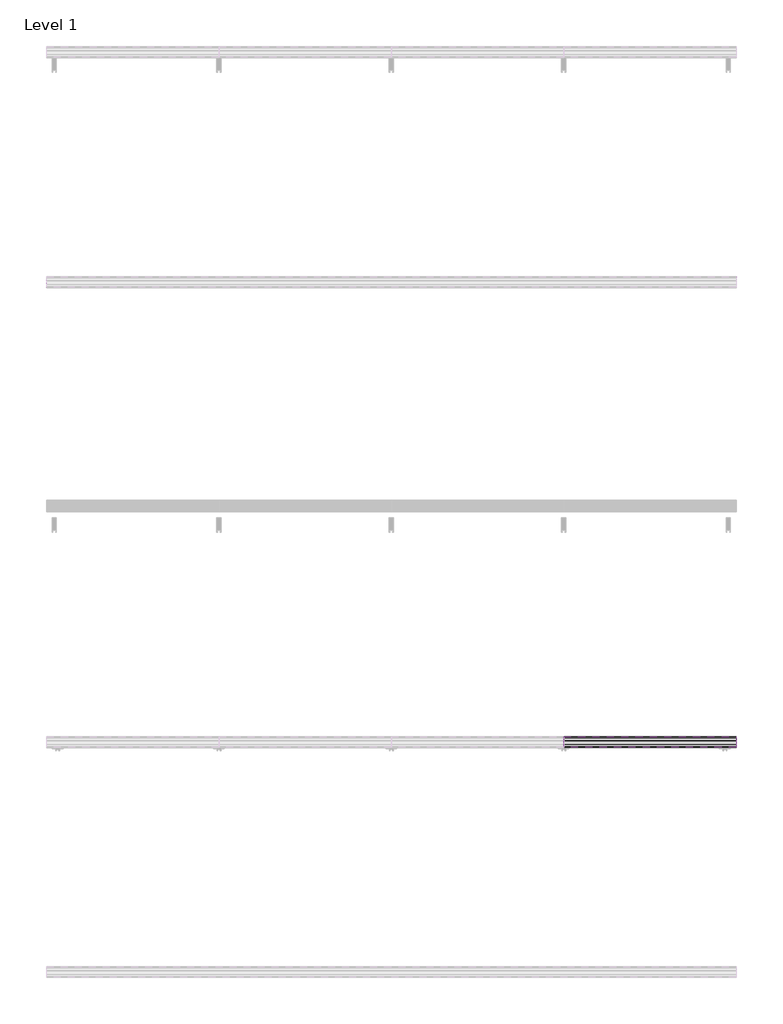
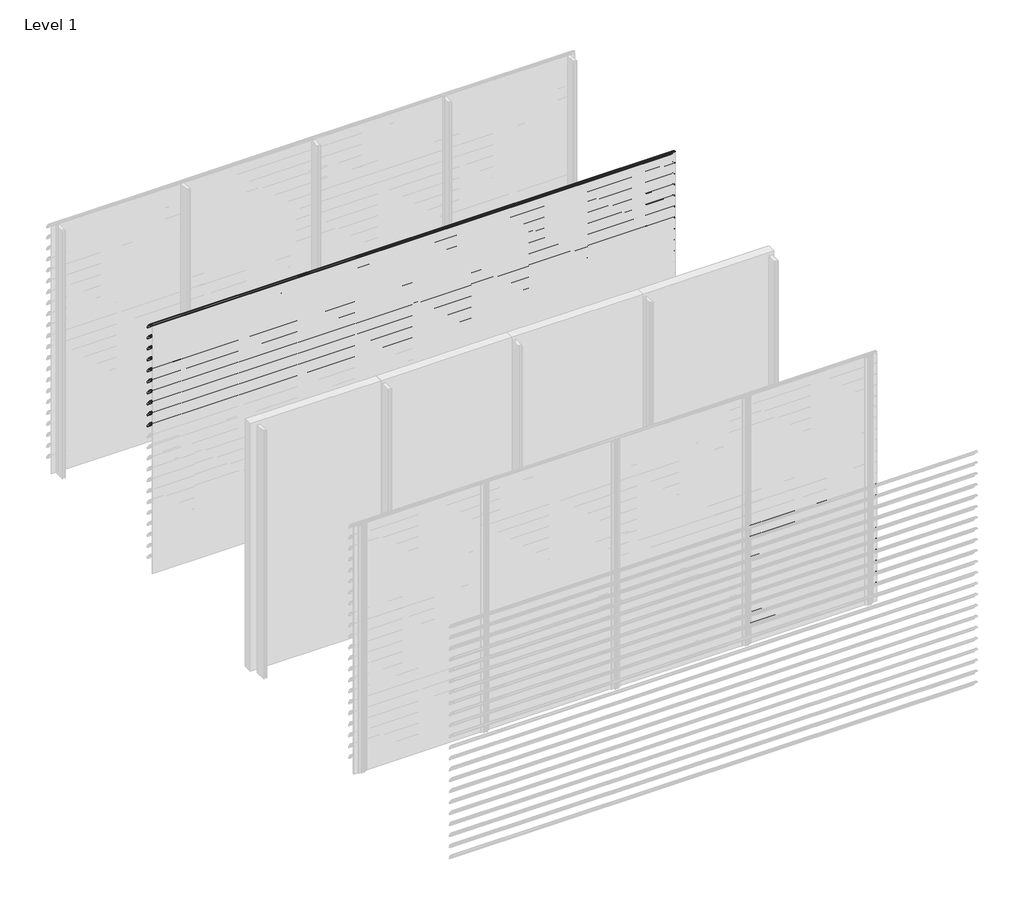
# One storey, part 8 of 57: 20 proxies.
"""IFC4 building model written with IfcOpenShell, lengths in millimetres."""

from ifc_helpers import new_model, si_unit, point, frame, frame_2d, origin, place, context, project, spatial, polyline, circle_curve, trimmed, segment, composite_curve, outline, extrude, element, save

model = new_model("IFC4")

# Units and contexts
model_context = context("Model", 3, world=origin())
ifc_project = project(units=[si_unit("LENGTHUNIT", "METRE", prefix="MILLI")], contexts=[model_context])

# Site, building, storey
site = spatial("IfcSite", under=ifc_project)
building = spatial("IfcBuilding", under=site)
storey = spatial("IfcBuildingStorey", under=building, Name="Level 1", Elevation=0.0)

# Proxies
placement = place(None, origin())
element("IfcBuildingElementProxy", 1, Name="Wall Sweeps", at=placement, inside=storey, context=model_context, shape_type="SweptSolid", body=[
    extrude(outline(composite_curve([segment(trimmed(circle_curve(frame_2d((-49993.7822526, 3016.4913792)), 4.2177474), [point((-49989.6985606, 3017.5462976))], [point((-49993.7822526, 3020.7091266))], False, "CARTESIAN"), True, "CONTINUOUS"), segment(trimmed(circle_curve(frame_2d((-50018.7150834, 2918.2536312)), 105.4456002), [point((-49993.7822526, 3020.7091266))], [point((-49971.7914298, 3012.6832099))], False, "CARTESIAN"), True, "CONTINUOUS"), segment(trimmed(circle_curve(frame_2d((-50061.7199745, 2864.0352476)), 173.7335887), [point((-49971.7914298, 3012.6832099))], [point((-49913.0720121, 2953.9637922))], False, "CARTESIAN"), True, "CONTINUOUS"), segment(trimmed(circle_curve(frame_2d((-50004.9297178, 2902.1860314)), 105.4456002), [point((-49913.0720121, 2953.9637922))], [point((-49903.6249616, 2931.4455765))], False, "CARTESIAN"), True, "CONTINUOUS"), segment(trimmed(circle_curve(frame_2d((-49907.809737, 2930.3307305)), 4.3307305), [point((-49903.6249616, 2931.4455765))], [point((-49909.0769196, 2926.189538))], False, "CARTESIAN"), True, "CONTINUOUS"), segment(polyline([(-49909.0769196, 2926.189538), (-49934.7401984, 2950.9722783)]), True, "CONTINUOUS"), segment(trimmed(circle_curve(frame_2d((-49931.3879574, 2953.2977626)), 4.079877), [point((-49934.7401984, 2950.9722783))], [point((-49930.7310597, 2957.3244091))], False, "CARTESIAN"), True, "CONTINUOUS"), segment(trimmed(circle_curve(frame_2d((-50014.6665585, 2935.2544323)), 86.7885467), [point((-49930.7310597, 2957.3244091))], [point((-49942.3028351, 2983.1683485))], True, "CARTESIAN"), True, "CONTINUOUS"), segment(polyline([(-49942.3028351, 2983.1683485), (-49940.7230099, 2985.9046861)]), True, "CONTINUOUS"), segment(trimmed(circle_curve(frame_2d((-50061.7199745, 2864.0352476)), 171.7335887), [point((-49940.7230099, 2985.9046861))], [point((-49972.7555872, 3010.9289618))], True, "CARTESIAN"), True, "CONTINUOUS"), segment(trimmed(circle_curve(frame_2d((-50018.7150834, 2918.2536312)), 103.4456002), [point((-49972.7555872, 3010.9289618))], [point((-49989.6985606, 3017.5462976))], True, "CARTESIAN"), True, "CONTINUOUS")], self_intersect=False)), frame((0.0, 0.0, 0.0), z_axis=(1.0, 0.0, 0.0), x_axis=(0.0, 1.0, 0.0)), (0.0, 0.0, 1.0), 6000.0),
])
element("IfcBuildingElementProxy", 2, Name="Wall Sweeps", at=placement, inside=storey, context=model_context, shape_type="SweptSolid", body=[
    extrude(outline(composite_curve([segment(trimmed(circle_curve(frame_2d((-49993.7822526, 2883.4913792)), 4.2177474), [point((-49989.6985606, 2884.5462976))], [point((-49993.7822526, 2887.7091266))], False, "CARTESIAN"), True, "CONTINUOUS"), segment(trimmed(circle_curve(frame_2d((-50018.7150834, 2785.2536312)), 105.4456002), [point((-49993.7822526, 2887.7091266))], [point((-49971.7914298, 2879.6832099))], False, "CARTESIAN"), True, "CONTINUOUS"), segment(trimmed(circle_curve(frame_2d((-50061.7199745, 2731.0352476)), 173.7335887), [point((-49971.7914298, 2879.6832099))], [point((-49913.0720121, 2820.9637922))], False, "CARTESIAN"), True, "CONTINUOUS"), segment(trimmed(circle_curve(frame_2d((-50004.9297178, 2769.1860314)), 105.4456002), [point((-49913.0720121, 2820.9637922))], [point((-49903.6249616, 2798.4455765))], False, "CARTESIAN"), True, "CONTINUOUS"), segment(trimmed(circle_curve(frame_2d((-49907.809737, 2797.3307305)), 4.3307305), [point((-49903.6249616, 2798.4455765))], [point((-49909.0769196, 2793.189538))], False, "CARTESIAN"), True, "CONTINUOUS"), segment(polyline([(-49909.0769196, 2793.189538), (-49934.7401984, 2817.9722783)]), True, "CONTINUOUS"), segment(trimmed(circle_curve(frame_2d((-49931.3879574, 2820.2977626)), 4.079877), [point((-49934.7401984, 2817.9722783))], [point((-49930.7310597, 2824.3244091))], False, "CARTESIAN"), True, "CONTINUOUS"), segment(trimmed(circle_curve(frame_2d((-50014.6665585, 2802.2544323)), 86.7885467), [point((-49930.7310597, 2824.3244091))], [point((-49942.3028351, 2850.1683485))], True, "CARTESIAN"), True, "CONTINUOUS"), segment(polyline([(-49942.3028351, 2850.1683485), (-49940.7230099, 2852.9046861)]), True, "CONTINUOUS"), segment(trimmed(circle_curve(frame_2d((-50061.7199745, 2731.0352476)), 171.7335887), [point((-49940.7230099, 2852.9046861))], [point((-49972.7555872, 2877.9289618))], True, "CARTESIAN"), True, "CONTINUOUS"), segment(trimmed(circle_curve(frame_2d((-50018.7150834, 2785.2536312)), 103.4456002), [point((-49972.7555872, 2877.9289618))], [point((-49989.6985606, 2884.5462976))], True, "CARTESIAN"), True, "CONTINUOUS")], self_intersect=False)), frame((0.0, 0.0, 0.0), z_axis=(1.0, 0.0, 0.0), x_axis=(0.0, 1.0, 0.0)), (0.0, 0.0, 1.0), 6000.0),
])
element("IfcBuildingElementProxy", 3, Name="Wall Sweeps", at=placement, inside=storey, context=model_context, shape_type="SweptSolid", body=[
    extrude(outline(composite_curve([segment(trimmed(circle_curve(frame_2d((-49993.7822526, 2750.4913792)), 4.2177474), [point((-49989.6985606, 2751.5462976))], [point((-49993.7822526, 2754.7091266))], False, "CARTESIAN"), True, "CONTINUOUS"), segment(trimmed(circle_curve(frame_2d((-50018.7150834, 2652.2536312)), 105.4456002), [point((-49993.7822526, 2754.7091266))], [point((-49971.7914298, 2746.6832099))], False, "CARTESIAN"), True, "CONTINUOUS"), segment(trimmed(circle_curve(frame_2d((-50061.7199745, 2598.0352476)), 173.7335887), [point((-49971.7914298, 2746.6832099))], [point((-49913.0720121, 2687.9637922))], False, "CARTESIAN"), True, "CONTINUOUS"), segment(trimmed(circle_curve(frame_2d((-50004.9297178, 2636.1860314)), 105.4456002), [point((-49913.0720121, 2687.9637922))], [point((-49903.6249616, 2665.4455765))], False, "CARTESIAN"), True, "CONTINUOUS"), segment(trimmed(circle_curve(frame_2d((-49907.809737, 2664.3307305)), 4.3307305), [point((-49903.6249616, 2665.4455765))], [point((-49909.0769196, 2660.189538))], False, "CARTESIAN"), True, "CONTINUOUS"), segment(polyline([(-49909.0769196, 2660.189538), (-49934.7401984, 2684.9722783)]), True, "CONTINUOUS"), segment(trimmed(circle_curve(frame_2d((-49931.3879574, 2687.2977626)), 4.079877), [point((-49934.7401984, 2684.9722783))], [point((-49930.7310597, 2691.3244091))], False, "CARTESIAN"), True, "CONTINUOUS"), segment(trimmed(circle_curve(frame_2d((-50014.6665585, 2669.2544323)), 86.7885467), [point((-49930.7310597, 2691.3244091))], [point((-49942.3028351, 2717.1683485))], True, "CARTESIAN"), True, "CONTINUOUS"), segment(polyline([(-49942.3028351, 2717.1683485), (-49940.7230099, 2719.9046861)]), True, "CONTINUOUS"), segment(trimmed(circle_curve(frame_2d((-50061.7199745, 2598.0352476)), 171.7335887), [point((-49940.7230099, 2719.9046861))], [point((-49972.7555872, 2744.9289618))], True, "CARTESIAN"), True, "CONTINUOUS"), segment(trimmed(circle_curve(frame_2d((-50018.7150834, 2652.2536312)), 103.4456002), [point((-49972.7555872, 2744.9289618))], [point((-49989.6985606, 2751.5462976))], True, "CARTESIAN"), True, "CONTINUOUS")], self_intersect=False)), frame((0.0, 0.0, 0.0), z_axis=(1.0, 0.0, 0.0), x_axis=(0.0, 1.0, 0.0)), (0.0, 0.0, 1.0), 6000.0),
])
element("IfcBuildingElementProxy", 4, Name="Wall Sweeps", at=placement, inside=storey, context=model_context, shape_type="SweptSolid", body=[
    extrude(outline(composite_curve([segment(trimmed(circle_curve(frame_2d((-49993.7822526, 2617.4913792)), 4.2177474), [point((-49989.6985606, 2618.5462976))], [point((-49993.7822526, 2621.7091266))], False, "CARTESIAN"), True, "CONTINUOUS"), segment(trimmed(circle_curve(frame_2d((-50018.7150834, 2519.2536312)), 105.4456002), [point((-49993.7822526, 2621.7091266))], [point((-49971.7914298, 2613.6832099))], False, "CARTESIAN"), True, "CONTINUOUS"), segment(trimmed(circle_curve(frame_2d((-50061.7199745, 2465.0352476)), 173.7335887), [point((-49971.7914298, 2613.6832099))], [point((-49913.0720121, 2554.9637922))], False, "CARTESIAN"), True, "CONTINUOUS"), segment(trimmed(circle_curve(frame_2d((-50004.9297178, 2503.1860314)), 105.4456002), [point((-49913.0720121, 2554.9637922))], [point((-49903.6249616, 2532.4455765))], False, "CARTESIAN"), True, "CONTINUOUS"), segment(trimmed(circle_curve(frame_2d((-49907.809737, 2531.3307305)), 4.3307305), [point((-49903.6249616, 2532.4455765))], [point((-49909.0769196, 2527.189538))], False, "CARTESIAN"), True, "CONTINUOUS"), segment(polyline([(-49909.0769196, 2527.189538), (-49934.7401984, 2551.9722783)]), True, "CONTINUOUS"), segment(trimmed(circle_curve(frame_2d((-49931.3879574, 2554.2977626)), 4.079877), [point((-49934.7401984, 2551.9722783))], [point((-49930.7310597, 2558.3244091))], False, "CARTESIAN"), True, "CONTINUOUS"), segment(trimmed(circle_curve(frame_2d((-50014.6665585, 2536.2544323)), 86.7885467), [point((-49930.7310597, 2558.3244091))], [point((-49942.3028351, 2584.1683485))], True, "CARTESIAN"), True, "CONTINUOUS"), segment(polyline([(-49942.3028351, 2584.1683485), (-49940.7230099, 2586.9046861)]), True, "CONTINUOUS"), segment(trimmed(circle_curve(frame_2d((-50061.7199745, 2465.0352476)), 171.7335887), [point((-49940.7230099, 2586.9046861))], [point((-49972.7555872, 2611.9289618))], True, "CARTESIAN"), True, "CONTINUOUS"), segment(trimmed(circle_curve(frame_2d((-50018.7150834, 2519.2536312)), 103.4456002), [point((-49972.7555872, 2611.9289618))], [point((-49989.6985606, 2618.5462976))], True, "CARTESIAN"), True, "CONTINUOUS")], self_intersect=False)), frame((0.0, 0.0, 0.0), z_axis=(1.0, 0.0, 0.0), x_axis=(0.0, 1.0, 0.0)), (0.0, 0.0, 1.0), 6000.0),
])
element("IfcBuildingElementProxy", 5, Name="Wall Sweeps", at=placement, inside=storey, context=model_context, shape_type="SweptSolid", body=[
    extrude(outline(composite_curve([segment(trimmed(circle_curve(frame_2d((-49993.7822526, 2484.4913792)), 4.2177474), [point((-49989.6985606, 2485.5462976))], [point((-49993.7822526, 2488.7091266))], False, "CARTESIAN"), True, "CONTINUOUS"), segment(trimmed(circle_curve(frame_2d((-50018.7150834, 2386.2536312)), 105.4456002), [point((-49993.7822526, 2488.7091266))], [point((-49971.7914298, 2480.6832099))], False, "CARTESIAN"), True, "CONTINUOUS"), segment(trimmed(circle_curve(frame_2d((-50061.7199745, 2332.0352476)), 173.7335887), [point((-49971.7914298, 2480.6832099))], [point((-49913.0720121, 2421.9637922))], False, "CARTESIAN"), True, "CONTINUOUS"), segment(trimmed(circle_curve(frame_2d((-50004.9297178, 2370.1860314)), 105.4456002), [point((-49913.0720121, 2421.9637922))], [point((-49903.6249616, 2399.4455765))], False, "CARTESIAN"), True, "CONTINUOUS"), segment(trimmed(circle_curve(frame_2d((-49907.809737, 2398.3307305)), 4.3307305), [point((-49903.6249616, 2399.4455765))], [point((-49909.0769196, 2394.189538))], False, "CARTESIAN"), True, "CONTINUOUS"), segment(polyline([(-49909.0769196, 2394.189538), (-49934.7401984, 2418.9722783)]), True, "CONTINUOUS"), segment(trimmed(circle_curve(frame_2d((-49931.3879574, 2421.2977626)), 4.079877), [point((-49934.7401984, 2418.9722783))], [point((-49930.7310597, 2425.3244091))], False, "CARTESIAN"), True, "CONTINUOUS"), segment(trimmed(circle_curve(frame_2d((-50014.6665585, 2403.2544323)), 86.7885467), [point((-49930.7310597, 2425.3244091))], [point((-49942.3028351, 2451.1683485))], True, "CARTESIAN"), True, "CONTINUOUS"), segment(polyline([(-49942.3028351, 2451.1683485), (-49940.7230099, 2453.9046861)]), True, "CONTINUOUS"), segment(trimmed(circle_curve(frame_2d((-50061.7199745, 2332.0352476)), 171.7335887), [point((-49940.7230099, 2453.9046861))], [point((-49972.7555872, 2478.9289618))], True, "CARTESIAN"), True, "CONTINUOUS"), segment(trimmed(circle_curve(frame_2d((-50018.7150834, 2386.2536312)), 103.4456002), [point((-49972.7555872, 2478.9289618))], [point((-49989.6985606, 2485.5462976))], True, "CARTESIAN"), True, "CONTINUOUS")], self_intersect=False)), frame((0.0, 0.0, 0.0), z_axis=(1.0, 0.0, 0.0), x_axis=(0.0, 1.0, 0.0)), (0.0, 0.0, 1.0), 6000.0),
])
element("IfcBuildingElementProxy", 6, Name="Wall Sweeps", at=placement, inside=storey, context=model_context, shape_type="SweptSolid", body=[
    extrude(outline(composite_curve([segment(trimmed(circle_curve(frame_2d((-49993.7822526, 2351.4913792)), 4.2177474), [point((-49989.6985606, 2352.5462976))], [point((-49993.7822526, 2355.7091266))], False, "CARTESIAN"), True, "CONTINUOUS"), segment(trimmed(circle_curve(frame_2d((-50018.7150834, 2253.2536312)), 105.4456002), [point((-49993.7822526, 2355.7091266))], [point((-49971.7914298, 2347.6832099))], False, "CARTESIAN"), True, "CONTINUOUS"), segment(trimmed(circle_curve(frame_2d((-50061.7199745, 2199.0352476)), 173.7335887), [point((-49971.7914298, 2347.6832099))], [point((-49913.0720121, 2288.9637922))], False, "CARTESIAN"), True, "CONTINUOUS"), segment(trimmed(circle_curve(frame_2d((-50004.9297178, 2237.1860314)), 105.4456002), [point((-49913.0720121, 2288.9637922))], [point((-49903.6249616, 2266.4455765))], False, "CARTESIAN"), True, "CONTINUOUS"), segment(trimmed(circle_curve(frame_2d((-49907.809737, 2265.3307305)), 4.3307305), [point((-49903.6249616, 2266.4455765))], [point((-49909.0769196, 2261.189538))], False, "CARTESIAN"), True, "CONTINUOUS"), segment(polyline([(-49909.0769196, 2261.189538), (-49934.7401984, 2285.9722783)]), True, "CONTINUOUS"), segment(trimmed(circle_curve(frame_2d((-49931.3879574, 2288.2977626)), 4.079877), [point((-49934.7401984, 2285.9722783))], [point((-49930.7310597, 2292.3244091))], False, "CARTESIAN"), True, "CONTINUOUS"), segment(trimmed(circle_curve(frame_2d((-50014.6665585, 2270.2544323)), 86.7885467), [point((-49930.7310597, 2292.3244091))], [point((-49942.3028351, 2318.1683485))], True, "CARTESIAN"), True, "CONTINUOUS"), segment(polyline([(-49942.3028351, 2318.1683485), (-49940.7230099, 2320.9046861)]), True, "CONTINUOUS"), segment(trimmed(circle_curve(frame_2d((-50061.7199745, 2199.0352476)), 171.7335887), [point((-49940.7230099, 2320.9046861))], [point((-49972.7555872, 2345.9289618))], True, "CARTESIAN"), True, "CONTINUOUS"), segment(trimmed(circle_curve(frame_2d((-50018.7150834, 2253.2536312)), 103.4456002), [point((-49972.7555872, 2345.9289618))], [point((-49989.6985606, 2352.5462976))], True, "CARTESIAN"), True, "CONTINUOUS")], self_intersect=False)), frame((0.0, 0.0, 0.0), z_axis=(1.0, 0.0, 0.0), x_axis=(0.0, 1.0, 0.0)), (0.0, 0.0, 1.0), 6000.0),
])
element("IfcBuildingElementProxy", 7, Name="Wall Sweeps", at=placement, inside=storey, context=model_context, shape_type="SweptSolid", body=[
    extrude(outline(composite_curve([segment(trimmed(circle_curve(frame_2d((-49993.7822526, 2218.4913792)), 4.2177474), [point((-49989.6985606, 2219.5462976))], [point((-49993.7822526, 2222.7091266))], False, "CARTESIAN"), True, "CONTINUOUS"), segment(trimmed(circle_curve(frame_2d((-50018.7150834, 2120.2536312)), 105.4456002), [point((-49993.7822526, 2222.7091266))], [point((-49971.7914298, 2214.6832099))], False, "CARTESIAN"), True, "CONTINUOUS"), segment(trimmed(circle_curve(frame_2d((-50061.7199745, 2066.0352476)), 173.7335887), [point((-49971.7914298, 2214.6832099))], [point((-49913.0720121, 2155.9637922))], False, "CARTESIAN"), True, "CONTINUOUS"), segment(trimmed(circle_curve(frame_2d((-50004.9297178, 2104.1860314)), 105.4456002), [point((-49913.0720121, 2155.9637922))], [point((-49903.6249616, 2133.4455765))], False, "CARTESIAN"), True, "CONTINUOUS"), segment(trimmed(circle_curve(frame_2d((-49907.809737, 2132.3307305)), 4.3307305), [point((-49903.6249616, 2133.4455765))], [point((-49909.0769196, 2128.189538))], False, "CARTESIAN"), True, "CONTINUOUS"), segment(polyline([(-49909.0769196, 2128.189538), (-49934.7401984, 2152.9722783)]), True, "CONTINUOUS"), segment(trimmed(circle_curve(frame_2d((-49931.3879574, 2155.2977626)), 4.079877), [point((-49934.7401984, 2152.9722783))], [point((-49930.7310597, 2159.3244091))], False, "CARTESIAN"), True, "CONTINUOUS"), segment(trimmed(circle_curve(frame_2d((-50014.6665585, 2137.2544323)), 86.7885467), [point((-49930.7310597, 2159.3244091))], [point((-49942.3028351, 2185.1683485))], True, "CARTESIAN"), True, "CONTINUOUS"), segment(polyline([(-49942.3028351, 2185.1683485), (-49940.7230099, 2187.9046861)]), True, "CONTINUOUS"), segment(trimmed(circle_curve(frame_2d((-50061.7199745, 2066.0352476)), 171.7335887), [point((-49940.7230099, 2187.9046861))], [point((-49972.7555872, 2212.9289618))], True, "CARTESIAN"), True, "CONTINUOUS"), segment(trimmed(circle_curve(frame_2d((-50018.7150834, 2120.2536312)), 103.4456002), [point((-49972.7555872, 2212.9289618))], [point((-49989.6985606, 2219.5462976))], True, "CARTESIAN"), True, "CONTINUOUS")], self_intersect=False)), frame((0.0, 0.0, 0.0), z_axis=(1.0, 0.0, 0.0), x_axis=(0.0, 1.0, 0.0)), (0.0, 0.0, 1.0), 6000.0),
])
element("IfcBuildingElementProxy", 8, Name="Wall Sweeps", at=placement, inside=storey, context=model_context, shape_type="SweptSolid", body=[
    extrude(outline(composite_curve([segment(trimmed(circle_curve(frame_2d((-49993.7822526, 2085.4913792)), 4.2177474), [point((-49989.6985606, 2086.5462976))], [point((-49993.7822526, 2089.7091266))], False, "CARTESIAN"), True, "CONTINUOUS"), segment(trimmed(circle_curve(frame_2d((-50018.7150834, 1987.2536312)), 105.4456002), [point((-49993.7822526, 2089.7091266))], [point((-49971.7914298, 2081.6832099))], False, "CARTESIAN"), True, "CONTINUOUS"), segment(trimmed(circle_curve(frame_2d((-50061.7199745, 1933.0352476)), 173.7335887), [point((-49971.7914298, 2081.6832099))], [point((-49913.0720121, 2022.9637922))], False, "CARTESIAN"), True, "CONTINUOUS"), segment(trimmed(circle_curve(frame_2d((-50004.9297178, 1971.1860314)), 105.4456002), [point((-49913.0720121, 2022.9637922))], [point((-49903.6249616, 2000.4455765))], False, "CARTESIAN"), True, "CONTINUOUS"), segment(trimmed(circle_curve(frame_2d((-49907.809737, 1999.3307305)), 4.3307305), [point((-49903.6249616, 2000.4455765))], [point((-49909.0769196, 1995.189538))], False, "CARTESIAN"), True, "CONTINUOUS"), segment(polyline([(-49909.0769196, 1995.189538), (-49934.7401984, 2019.9722783)]), True, "CONTINUOUS"), segment(trimmed(circle_curve(frame_2d((-49931.3879574, 2022.2977626)), 4.079877), [point((-49934.7401984, 2019.9722783))], [point((-49930.7310597, 2026.3244091))], False, "CARTESIAN"), True, "CONTINUOUS"), segment(trimmed(circle_curve(frame_2d((-50014.6665585, 2004.2544323)), 86.7885467), [point((-49930.7310597, 2026.3244091))], [point((-49942.3028351, 2052.1683485))], True, "CARTESIAN"), True, "CONTINUOUS"), segment(polyline([(-49942.3028351, 2052.1683485), (-49940.7230099, 2054.9046861)]), True, "CONTINUOUS"), segment(trimmed(circle_curve(frame_2d((-50061.7199745, 1933.0352476)), 171.7335887), [point((-49940.7230099, 2054.9046861))], [point((-49972.7555872, 2079.9289618))], True, "CARTESIAN"), True, "CONTINUOUS"), segment(trimmed(circle_curve(frame_2d((-50018.7150834, 1987.2536312)), 103.4456002), [point((-49972.7555872, 2079.9289618))], [point((-49989.6985606, 2086.5462976))], True, "CARTESIAN"), True, "CONTINUOUS")], self_intersect=False)), frame((0.0, 0.0, 0.0), z_axis=(1.0, 0.0, 0.0), x_axis=(0.0, 1.0, 0.0)), (0.0, 0.0, 1.0), 6000.0),
])
element("IfcBuildingElementProxy", 9, Name="Wall Sweeps", at=placement, inside=storey, context=model_context, shape_type="SweptSolid", body=[
    extrude(outline(composite_curve([segment(trimmed(circle_curve(frame_2d((-49993.7822526, 1952.4913792)), 4.2177474), [point((-49989.6985606, 1953.5462976))], [point((-49993.7822526, 1956.7091266))], False, "CARTESIAN"), True, "CONTINUOUS"), segment(trimmed(circle_curve(frame_2d((-50018.7150834, 1854.2536312)), 105.4456002), [point((-49993.7822526, 1956.7091266))], [point((-49971.7914298, 1948.6832099))], False, "CARTESIAN"), True, "CONTINUOUS"), segment(trimmed(circle_curve(frame_2d((-50061.7199745, 1800.0352476)), 173.7335887), [point((-49971.7914298, 1948.6832099))], [point((-49913.0720121, 1889.9637922))], False, "CARTESIAN"), True, "CONTINUOUS"), segment(trimmed(circle_curve(frame_2d((-50004.9297178, 1838.1860314)), 105.4456002), [point((-49913.0720121, 1889.9637922))], [point((-49903.6249616, 1867.4455765))], False, "CARTESIAN"), True, "CONTINUOUS"), segment(trimmed(circle_curve(frame_2d((-49907.809737, 1866.3307305)), 4.3307305), [point((-49903.6249616, 1867.4455765))], [point((-49909.0769196, 1862.189538))], False, "CARTESIAN"), True, "CONTINUOUS"), segment(polyline([(-49909.0769196, 1862.189538), (-49934.7401984, 1886.9722783)]), True, "CONTINUOUS"), segment(trimmed(circle_curve(frame_2d((-49931.3879574, 1889.2977626)), 4.079877), [point((-49934.7401984, 1886.9722783))], [point((-49930.7310597, 1893.3244091))], False, "CARTESIAN"), True, "CONTINUOUS"), segment(trimmed(circle_curve(frame_2d((-50014.6665585, 1871.2544323)), 86.7885467), [point((-49930.7310597, 1893.3244091))], [point((-49942.3028351, 1919.1683485))], True, "CARTESIAN"), True, "CONTINUOUS"), segment(polyline([(-49942.3028351, 1919.1683485), (-49940.7230099, 1921.9046861)]), True, "CONTINUOUS"), segment(trimmed(circle_curve(frame_2d((-50061.7199745, 1800.0352476)), 171.7335887), [point((-49940.7230099, 1921.9046861))], [point((-49972.7555872, 1946.9289618))], True, "CARTESIAN"), True, "CONTINUOUS"), segment(trimmed(circle_curve(frame_2d((-50018.7150834, 1854.2536312)), 103.4456002), [point((-49972.7555872, 1946.9289618))], [point((-49989.6985606, 1953.5462976))], True, "CARTESIAN"), True, "CONTINUOUS")], self_intersect=False)), frame((0.0, 0.0, 0.0), z_axis=(1.0, 0.0, 0.0), x_axis=(0.0, 1.0, 0.0)), (0.0, 0.0, 1.0), 6000.0),
])
element("IfcBuildingElementProxy", 10, Name="Wall Sweeps", at=placement, inside=storey, context=model_context, shape_type="SweptSolid", body=[
    extrude(outline(composite_curve([segment(trimmed(circle_curve(frame_2d((-49993.7822526, 1819.4913792)), 4.2177474), [point((-49989.6985606, 1820.5462976))], [point((-49993.7822526, 1823.7091266))], False, "CARTESIAN"), True, "CONTINUOUS"), segment(trimmed(circle_curve(frame_2d((-50018.7150834, 1721.2536312)), 105.4456002), [point((-49993.7822526, 1823.7091266))], [point((-49971.7914298, 1815.6832099))], False, "CARTESIAN"), True, "CONTINUOUS"), segment(trimmed(circle_curve(frame_2d((-50061.7199745, 1667.0352476)), 173.7335887), [point((-49971.7914298, 1815.6832099))], [point((-49913.0720121, 1756.9637922))], False, "CARTESIAN"), True, "CONTINUOUS"), segment(trimmed(circle_curve(frame_2d((-50004.9297178, 1705.1860314)), 105.4456002), [point((-49913.0720121, 1756.9637922))], [point((-49903.6249616, 1734.4455765))], False, "CARTESIAN"), True, "CONTINUOUS"), segment(trimmed(circle_curve(frame_2d((-49907.809737, 1733.3307305)), 4.3307305), [point((-49903.6249616, 1734.4455765))], [point((-49909.0769196, 1729.189538))], False, "CARTESIAN"), True, "CONTINUOUS"), segment(polyline([(-49909.0769196, 1729.189538), (-49934.7401984, 1753.9722783)]), True, "CONTINUOUS"), segment(trimmed(circle_curve(frame_2d((-49931.3879574, 1756.2977626)), 4.079877), [point((-49934.7401984, 1753.9722783))], [point((-49930.7310597, 1760.3244091))], False, "CARTESIAN"), True, "CONTINUOUS"), segment(trimmed(circle_curve(frame_2d((-50014.6665585, 1738.2544323)), 86.7885467), [point((-49930.7310597, 1760.3244091))], [point((-49942.3028351, 1786.1683485))], True, "CARTESIAN"), True, "CONTINUOUS"), segment(polyline([(-49942.3028351, 1786.1683485), (-49940.7230099, 1788.9046861)]), True, "CONTINUOUS"), segment(trimmed(circle_curve(frame_2d((-50061.7199745, 1667.0352476)), 171.7335887), [point((-49940.7230099, 1788.9046861))], [point((-49972.7555872, 1813.9289618))], True, "CARTESIAN"), True, "CONTINUOUS"), segment(trimmed(circle_curve(frame_2d((-50018.7150834, 1721.2536312)), 103.4456002), [point((-49972.7555872, 1813.9289618))], [point((-49989.6985606, 1820.5462976))], True, "CARTESIAN"), True, "CONTINUOUS")], self_intersect=False)), frame((0.0, 0.0, 0.0), z_axis=(1.0, 0.0, 0.0), x_axis=(0.0, 1.0, 0.0)), (0.0, 0.0, 1.0), 6000.0),
])
element("IfcBuildingElementProxy", 11, Name="Wall Sweeps", at=placement, inside=storey, context=model_context, shape_type="SweptSolid", body=[
    extrude(outline(composite_curve([segment(trimmed(circle_curve(frame_2d((-53993.7822526, 1420.4913792)), 4.2177474), [point((-53989.6985606, 1421.5462976))], [point((-53993.7822526, 1424.7091266))], False, "CARTESIAN"), True, "CONTINUOUS"), segment(trimmed(circle_curve(frame_2d((-54018.7150834, 1322.2536312)), 105.4456002), [point((-53993.7822526, 1424.7091266))], [point((-53971.7914298, 1416.6832099))], False, "CARTESIAN"), True, "CONTINUOUS"), segment(trimmed(circle_curve(frame_2d((-54061.7199745, 1268.0352476)), 173.7335887), [point((-53971.7914298, 1416.6832099))], [point((-53913.0720121, 1357.9637922))], False, "CARTESIAN"), True, "CONTINUOUS"), segment(trimmed(circle_curve(frame_2d((-54004.9297178, 1306.1860314)), 105.4456002), [point((-53913.0720121, 1357.9637922))], [point((-53903.6249616, 1335.4455765))], False, "CARTESIAN"), True, "CONTINUOUS"), segment(trimmed(circle_curve(frame_2d((-53907.809737, 1334.3307305)), 4.3307305), [point((-53903.6249616, 1335.4455765))], [point((-53909.0769196, 1330.189538))], False, "CARTESIAN"), True, "CONTINUOUS"), segment(polyline([(-53909.0769196, 1330.189538), (-53934.7401984, 1354.9722783)]), True, "CONTINUOUS"), segment(trimmed(circle_curve(frame_2d((-53931.3879574, 1357.2977626)), 4.079877), [point((-53934.7401984, 1354.9722783))], [point((-53930.7310597, 1361.3244091))], False, "CARTESIAN"), True, "CONTINUOUS"), segment(trimmed(circle_curve(frame_2d((-54014.6665585, 1339.2544323)), 86.7885467), [point((-53930.7310597, 1361.3244091))], [point((-53942.3028351, 1387.1683485))], True, "CARTESIAN"), True, "CONTINUOUS"), segment(polyline([(-53942.3028351, 1387.1683485), (-53940.7230099, 1389.9046861)]), True, "CONTINUOUS"), segment(trimmed(circle_curve(frame_2d((-54061.7199745, 1268.0352476)), 171.7335887), [point((-53940.7230099, 1389.9046861))], [point((-53972.7555872, 1414.9289618))], True, "CARTESIAN"), True, "CONTINUOUS"), segment(trimmed(circle_curve(frame_2d((-54018.7150834, 1322.2536312)), 103.4456002), [point((-53972.7555872, 1414.9289618))], [point((-53989.6985606, 1421.5462976))], True, "CARTESIAN"), True, "CONTINUOUS")], self_intersect=False)), frame((4500.0, 0.0, 0.0), z_axis=(1.0, 0.0, 0.0), x_axis=(0.0, 1.0, 0.0)), (0.0, 0.0, 1.0), 1500.0),
])
element("IfcBuildingElementProxy", 12, Name="Wall Sweeps", at=placement, inside=storey, context=model_context, shape_type="SweptSolid", body=[
    extrude(outline(composite_curve([segment(trimmed(circle_curve(frame_2d((-53993.7822526, 1287.4913792)), 4.2177474), [point((-53989.6985606, 1288.5462976))], [point((-53993.7822526, 1291.7091266))], False, "CARTESIAN"), True, "CONTINUOUS"), segment(trimmed(circle_curve(frame_2d((-54018.7150834, 1189.2536312)), 105.4456002), [point((-53993.7822526, 1291.7091266))], [point((-53971.7914298, 1283.6832099))], False, "CARTESIAN"), True, "CONTINUOUS"), segment(trimmed(circle_curve(frame_2d((-54061.7199745, 1135.0352476)), 173.7335887), [point((-53971.7914298, 1283.6832099))], [point((-53913.0720121, 1224.9637922))], False, "CARTESIAN"), True, "CONTINUOUS"), segment(trimmed(circle_curve(frame_2d((-54004.9297178, 1173.1860314)), 105.4456002), [point((-53913.0720121, 1224.9637922))], [point((-53903.6249616, 1202.4455765))], False, "CARTESIAN"), True, "CONTINUOUS"), segment(trimmed(circle_curve(frame_2d((-53907.809737, 1201.3307305)), 4.3307305), [point((-53903.6249616, 1202.4455765))], [point((-53909.0769196, 1197.189538))], False, "CARTESIAN"), True, "CONTINUOUS"), segment(polyline([(-53909.0769196, 1197.189538), (-53934.7401984, 1221.9722783)]), True, "CONTINUOUS"), segment(trimmed(circle_curve(frame_2d((-53931.3879574, 1224.2977626)), 4.079877), [point((-53934.7401984, 1221.9722783))], [point((-53930.7310597, 1228.3244091))], False, "CARTESIAN"), True, "CONTINUOUS"), segment(trimmed(circle_curve(frame_2d((-54014.6665585, 1206.2544323)), 86.7885467), [point((-53930.7310597, 1228.3244091))], [point((-53942.3028351, 1254.1683485))], True, "CARTESIAN"), True, "CONTINUOUS"), segment(polyline([(-53942.3028351, 1254.1683485), (-53940.7230099, 1256.9046861)]), True, "CONTINUOUS"), segment(trimmed(circle_curve(frame_2d((-54061.7199745, 1135.0352476)), 171.7335887), [point((-53940.7230099, 1256.9046861))], [point((-53972.7555872, 1281.9289618))], True, "CARTESIAN"), True, "CONTINUOUS"), segment(trimmed(circle_curve(frame_2d((-54018.7150834, 1189.2536312)), 103.4456002), [point((-53972.7555872, 1281.9289618))], [point((-53989.6985606, 1288.5462976))], True, "CARTESIAN"), True, "CONTINUOUS")], self_intersect=False)), frame((4500.0, 0.0, 0.0), z_axis=(1.0, 0.0, 0.0), x_axis=(0.0, 1.0, 0.0)), (0.0, 0.0, 1.0), 1500.0),
])
element("IfcBuildingElementProxy", 13, Name="Wall Sweeps", at=placement, inside=storey, context=model_context, shape_type="SweptSolid", body=[
    extrude(outline(composite_curve([segment(trimmed(circle_curve(frame_2d((-53993.7822526, 1154.4913792)), 4.2177474), [point((-53989.6985606, 1155.5462976))], [point((-53993.7822526, 1158.7091266))], False, "CARTESIAN"), True, "CONTINUOUS"), segment(trimmed(circle_curve(frame_2d((-54018.7150834, 1056.2536312)), 105.4456002), [point((-53993.7822526, 1158.7091266))], [point((-53971.7914298, 1150.6832099))], False, "CARTESIAN"), True, "CONTINUOUS"), segment(trimmed(circle_curve(frame_2d((-54061.7199745, 1002.0352476)), 173.7335887), [point((-53971.7914298, 1150.6832099))], [point((-53913.0720121, 1091.9637922))], False, "CARTESIAN"), True, "CONTINUOUS"), segment(trimmed(circle_curve(frame_2d((-54004.9297178, 1040.1860314)), 105.4456002), [point((-53913.0720121, 1091.9637922))], [point((-53903.6249616, 1069.4455765))], False, "CARTESIAN"), True, "CONTINUOUS"), segment(trimmed(circle_curve(frame_2d((-53907.809737, 1068.3307305)), 4.3307305), [point((-53903.6249616, 1069.4455765))], [point((-53909.0769196, 1064.189538))], False, "CARTESIAN"), True, "CONTINUOUS"), segment(polyline([(-53909.0769196, 1064.189538), (-53934.7401984, 1088.9722783)]), True, "CONTINUOUS"), segment(trimmed(circle_curve(frame_2d((-53931.3879574, 1091.2977626)), 4.079877), [point((-53934.7401984, 1088.9722783))], [point((-53930.7310597, 1095.3244091))], False, "CARTESIAN"), True, "CONTINUOUS"), segment(trimmed(circle_curve(frame_2d((-54014.6665585, 1073.2544323)), 86.7885467), [point((-53930.7310597, 1095.3244091))], [point((-53942.3028351, 1121.1683485))], True, "CARTESIAN"), True, "CONTINUOUS"), segment(polyline([(-53942.3028351, 1121.1683485), (-53940.7230099, 1123.9046861)]), True, "CONTINUOUS"), segment(trimmed(circle_curve(frame_2d((-54061.7199745, 1002.0352476)), 171.7335887), [point((-53940.7230099, 1123.9046861))], [point((-53972.7555872, 1148.9289618))], True, "CARTESIAN"), True, "CONTINUOUS"), segment(trimmed(circle_curve(frame_2d((-54018.7150834, 1056.2536312)), 103.4456002), [point((-53972.7555872, 1148.9289618))], [point((-53989.6985606, 1155.5462976))], True, "CARTESIAN"), True, "CONTINUOUS")], self_intersect=False)), frame((4500.0, 0.0, 0.0), z_axis=(1.0, 0.0, 0.0), x_axis=(0.0, 1.0, 0.0)), (0.0, 0.0, 1.0), 1500.0),
])
element("IfcBuildingElementProxy", 14, Name="Wall Sweeps", at=placement, inside=storey, context=model_context, shape_type="SweptSolid", body=[
    extrude(outline(composite_curve([segment(trimmed(circle_curve(frame_2d((-53993.7822526, 1021.4913792)), 4.2177474), [point((-53989.6985606, 1022.5462976))], [point((-53993.7822526, 1025.7091266))], False, "CARTESIAN"), True, "CONTINUOUS"), segment(trimmed(circle_curve(frame_2d((-54018.7150834, 923.2536312)), 105.4456002), [point((-53993.7822526, 1025.7091266))], [point((-53971.7914298, 1017.6832099))], False, "CARTESIAN"), True, "CONTINUOUS"), segment(trimmed(circle_curve(frame_2d((-54061.7199745, 869.0352476)), 173.7335887), [point((-53971.7914298, 1017.6832099))], [point((-53913.0720121, 958.9637922))], False, "CARTESIAN"), True, "CONTINUOUS"), segment(trimmed(circle_curve(frame_2d((-54004.9297178, 907.1860314)), 105.4456002), [point((-53913.0720121, 958.9637922))], [point((-53903.6249616, 936.4455765))], False, "CARTESIAN"), True, "CONTINUOUS"), segment(trimmed(circle_curve(frame_2d((-53907.809737, 935.3307305)), 4.3307305), [point((-53903.6249616, 936.4455765))], [point((-53909.0769196, 931.189538))], False, "CARTESIAN"), True, "CONTINUOUS"), segment(polyline([(-53909.0769196, 931.189538), (-53934.7401984, 955.9722783)]), True, "CONTINUOUS"), segment(trimmed(circle_curve(frame_2d((-53931.3879574, 958.2977626)), 4.079877), [point((-53934.7401984, 955.9722783))], [point((-53930.7310597, 962.3244091))], False, "CARTESIAN"), True, "CONTINUOUS"), segment(trimmed(circle_curve(frame_2d((-54014.6665585, 940.2544323)), 86.7885467), [point((-53930.7310597, 962.3244091))], [point((-53942.3028351, 988.1683485))], True, "CARTESIAN"), True, "CONTINUOUS"), segment(polyline([(-53942.3028351, 988.1683485), (-53940.7230099, 990.9046861)]), True, "CONTINUOUS"), segment(trimmed(circle_curve(frame_2d((-54061.7199745, 869.0352476)), 171.7335887), [point((-53940.7230099, 990.9046861))], [point((-53972.7555872, 1015.9289618))], True, "CARTESIAN"), True, "CONTINUOUS"), segment(trimmed(circle_curve(frame_2d((-54018.7150834, 923.2536312)), 103.4456002), [point((-53972.7555872, 1015.9289618))], [point((-53989.6985606, 1022.5462976))], True, "CARTESIAN"), True, "CONTINUOUS")], self_intersect=False)), frame((4500.0, 0.0, 0.0), z_axis=(1.0, 0.0, 0.0), x_axis=(0.0, 1.0, 0.0)), (0.0, 0.0, 1.0), 1500.0),
])
element("IfcBuildingElementProxy", 15, Name="Wall Sweeps", at=placement, inside=storey, context=model_context, shape_type="SweptSolid", body=[
    extrude(outline(composite_curve([segment(trimmed(circle_curve(frame_2d((-53993.7822526, 888.4913792)), 4.2177474), [point((-53989.6985606, 889.5462976))], [point((-53993.7822526, 892.7091266))], False, "CARTESIAN"), True, "CONTINUOUS"), segment(trimmed(circle_curve(frame_2d((-54018.7150834, 790.2536312)), 105.4456002), [point((-53993.7822526, 892.7091266))], [point((-53971.7914298, 884.6832099))], False, "CARTESIAN"), True, "CONTINUOUS"), segment(trimmed(circle_curve(frame_2d((-54061.7199745, 736.0352476)), 173.7335887), [point((-53971.7914298, 884.6832099))], [point((-53913.0720121, 825.9637922))], False, "CARTESIAN"), True, "CONTINUOUS"), segment(trimmed(circle_curve(frame_2d((-54004.9297178, 774.1860314)), 105.4456002), [point((-53913.0720121, 825.9637922))], [point((-53903.6249616, 803.4455765))], False, "CARTESIAN"), True, "CONTINUOUS"), segment(trimmed(circle_curve(frame_2d((-53907.809737, 802.3307305)), 4.3307305), [point((-53903.6249616, 803.4455765))], [point((-53909.0769196, 798.189538))], False, "CARTESIAN"), True, "CONTINUOUS"), segment(polyline([(-53909.0769196, 798.189538), (-53934.7401984, 822.9722783)]), True, "CONTINUOUS"), segment(trimmed(circle_curve(frame_2d((-53931.3879574, 825.2977626)), 4.079877), [point((-53934.7401984, 822.9722783))], [point((-53930.7310597, 829.3244091))], False, "CARTESIAN"), True, "CONTINUOUS"), segment(trimmed(circle_curve(frame_2d((-54014.6665585, 807.2544323)), 86.7885467), [point((-53930.7310597, 829.3244091))], [point((-53942.3028351, 855.1683485))], True, "CARTESIAN"), True, "CONTINUOUS"), segment(polyline([(-53942.3028351, 855.1683485), (-53940.7230099, 857.9046861)]), True, "CONTINUOUS"), segment(trimmed(circle_curve(frame_2d((-54061.7199745, 736.0352476)), 171.7335887), [point((-53940.7230099, 857.9046861))], [point((-53972.7555872, 882.9289618))], True, "CARTESIAN"), True, "CONTINUOUS"), segment(trimmed(circle_curve(frame_2d((-54018.7150834, 790.2536312)), 103.4456002), [point((-53972.7555872, 882.9289618))], [point((-53989.6985606, 889.5462976))], True, "CARTESIAN"), True, "CONTINUOUS")], self_intersect=False)), frame((4500.0, 0.0, 0.0), z_axis=(1.0, 0.0, 0.0), x_axis=(0.0, 1.0, 0.0)), (0.0, 0.0, 1.0), 1500.0),
])
element("IfcBuildingElementProxy", 16, Name="Wall Sweeps", at=placement, inside=storey, context=model_context, shape_type="SweptSolid", body=[
    extrude(outline(composite_curve([segment(trimmed(circle_curve(frame_2d((-53993.7822526, 755.4913792)), 4.2177474), [point((-53989.6985606, 756.5462976))], [point((-53993.7822526, 759.7091266))], False, "CARTESIAN"), True, "CONTINUOUS"), segment(trimmed(circle_curve(frame_2d((-54018.7150834, 657.2536312)), 105.4456002), [point((-53993.7822526, 759.7091266))], [point((-53971.7914298, 751.6832099))], False, "CARTESIAN"), True, "CONTINUOUS"), segment(trimmed(circle_curve(frame_2d((-54061.7199745, 603.0352476)), 173.7335887), [point((-53971.7914298, 751.6832099))], [point((-53913.0720121, 692.9637922))], False, "CARTESIAN"), True, "CONTINUOUS"), segment(trimmed(circle_curve(frame_2d((-54004.9297178, 641.1860314)), 105.4456002), [point((-53913.0720121, 692.9637922))], [point((-53903.6249616, 670.4455765))], False, "CARTESIAN"), True, "CONTINUOUS"), segment(trimmed(circle_curve(frame_2d((-53907.809737, 669.3307305)), 4.3307305), [point((-53903.6249616, 670.4455765))], [point((-53909.0769196, 665.189538))], False, "CARTESIAN"), True, "CONTINUOUS"), segment(polyline([(-53909.0769196, 665.189538), (-53934.7401984, 689.9722783)]), True, "CONTINUOUS"), segment(trimmed(circle_curve(frame_2d((-53931.3879574, 692.2977626)), 4.079877), [point((-53934.7401984, 689.9722783))], [point((-53930.7310597, 696.3244091))], False, "CARTESIAN"), True, "CONTINUOUS"), segment(trimmed(circle_curve(frame_2d((-54014.6665585, 674.2544323)), 86.7885467), [point((-53930.7310597, 696.3244091))], [point((-53942.3028351, 722.1683485))], True, "CARTESIAN"), True, "CONTINUOUS"), segment(polyline([(-53942.3028351, 722.1683485), (-53940.7230099, 724.9046861)]), True, "CONTINUOUS"), segment(trimmed(circle_curve(frame_2d((-54061.7199745, 603.0352476)), 171.7335887), [point((-53940.7230099, 724.9046861))], [point((-53972.7555872, 749.9289618))], True, "CARTESIAN"), True, "CONTINUOUS"), segment(trimmed(circle_curve(frame_2d((-54018.7150834, 657.2536312)), 103.4456002), [point((-53972.7555872, 749.9289618))], [point((-53989.6985606, 756.5462976))], True, "CARTESIAN"), True, "CONTINUOUS")], self_intersect=False)), frame((4500.0, 0.0, 0.0), z_axis=(1.0, 0.0, 0.0), x_axis=(0.0, 1.0, 0.0)), (0.0, 0.0, 1.0), 1500.0),
])
element("IfcBuildingElementProxy", 17, Name="Wall Sweeps", at=placement, inside=storey, context=model_context, shape_type="SweptSolid", body=[
    extrude(outline(composite_curve([segment(trimmed(circle_curve(frame_2d((-53993.7822526, 622.4913792)), 4.2177474), [point((-53989.6985606, 623.5462976))], [point((-53993.7822526, 626.7091266))], False, "CARTESIAN"), True, "CONTINUOUS"), segment(trimmed(circle_curve(frame_2d((-54018.7150834, 524.2536312)), 105.4456002), [point((-53993.7822526, 626.7091266))], [point((-53971.7914298, 618.6832099))], False, "CARTESIAN"), True, "CONTINUOUS"), segment(trimmed(circle_curve(frame_2d((-54061.7199745, 470.0352476)), 173.7335887), [point((-53971.7914298, 618.6832099))], [point((-53913.0720121, 559.9637922))], False, "CARTESIAN"), True, "CONTINUOUS"), segment(trimmed(circle_curve(frame_2d((-54004.9297178, 508.1860314)), 105.4456002), [point((-53913.0720121, 559.9637922))], [point((-53903.6249616, 537.4455765))], False, "CARTESIAN"), True, "CONTINUOUS"), segment(trimmed(circle_curve(frame_2d((-53907.809737, 536.3307305)), 4.3307305), [point((-53903.6249616, 537.4455765))], [point((-53909.0769196, 532.189538))], False, "CARTESIAN"), True, "CONTINUOUS"), segment(polyline([(-53909.0769196, 532.189538), (-53934.7401984, 556.9722783)]), True, "CONTINUOUS"), segment(trimmed(circle_curve(frame_2d((-53931.3879574, 559.2977626)), 4.079877), [point((-53934.7401984, 556.9722783))], [point((-53930.7310597, 563.3244091))], False, "CARTESIAN"), True, "CONTINUOUS"), segment(trimmed(circle_curve(frame_2d((-54014.6665585, 541.2544323)), 86.7885467), [point((-53930.7310597, 563.3244091))], [point((-53942.3028351, 589.1683485))], True, "CARTESIAN"), True, "CONTINUOUS"), segment(polyline([(-53942.3028351, 589.1683485), (-53940.7230099, 591.9046861)]), True, "CONTINUOUS"), segment(trimmed(circle_curve(frame_2d((-54061.7199745, 470.0352476)), 171.7335887), [point((-53940.7230099, 591.9046861))], [point((-53972.7555872, 616.9289618))], True, "CARTESIAN"), True, "CONTINUOUS"), segment(trimmed(circle_curve(frame_2d((-54018.7150834, 524.2536312)), 103.4456002), [point((-53972.7555872, 616.9289618))], [point((-53989.6985606, 623.5462976))], True, "CARTESIAN"), True, "CONTINUOUS")], self_intersect=False)), frame((4500.0, 0.0, 0.0), z_axis=(1.0, 0.0, 0.0), x_axis=(0.0, 1.0, 0.0)), (0.0, 0.0, 1.0), 1500.0),
])
element("IfcBuildingElementProxy", 18, Name="Wall Sweeps", at=placement, inside=storey, context=model_context, shape_type="SweptSolid", body=[
    extrude(outline(composite_curve([segment(trimmed(circle_curve(frame_2d((-53993.7822526, 489.4913792)), 4.2177474), [point((-53989.6985606, 490.5462976))], [point((-53993.7822526, 493.7091266))], False, "CARTESIAN"), True, "CONTINUOUS"), segment(trimmed(circle_curve(frame_2d((-54018.7150834, 391.2536312)), 105.4456002), [point((-53993.7822526, 493.7091266))], [point((-53971.7914298, 485.6832099))], False, "CARTESIAN"), True, "CONTINUOUS"), segment(trimmed(circle_curve(frame_2d((-54061.7199745, 337.0352476)), 173.7335887), [point((-53971.7914298, 485.6832099))], [point((-53913.0720121, 426.9637922))], False, "CARTESIAN"), True, "CONTINUOUS"), segment(trimmed(circle_curve(frame_2d((-54004.9297178, 375.1860314)), 105.4456002), [point((-53913.0720121, 426.9637922))], [point((-53903.6249616, 404.4455765))], False, "CARTESIAN"), True, "CONTINUOUS"), segment(trimmed(circle_curve(frame_2d((-53907.809737, 403.3307305)), 4.3307305), [point((-53903.6249616, 404.4455765))], [point((-53909.0769196, 399.189538))], False, "CARTESIAN"), True, "CONTINUOUS"), segment(polyline([(-53909.0769196, 399.189538), (-53934.7401984, 423.9722783)]), True, "CONTINUOUS"), segment(trimmed(circle_curve(frame_2d((-53931.3879574, 426.2977626)), 4.079877), [point((-53934.7401984, 423.9722783))], [point((-53930.7310597, 430.3244091))], False, "CARTESIAN"), True, "CONTINUOUS"), segment(trimmed(circle_curve(frame_2d((-54014.6665585, 408.2544323)), 86.7885467), [point((-53930.7310597, 430.3244091))], [point((-53942.3028351, 456.1683485))], True, "CARTESIAN"), True, "CONTINUOUS"), segment(polyline([(-53942.3028351, 456.1683485), (-53940.7230099, 458.9046861)]), True, "CONTINUOUS"), segment(trimmed(circle_curve(frame_2d((-54061.7199745, 337.0352476)), 171.7335887), [point((-53940.7230099, 458.9046861))], [point((-53972.7555872, 483.9289618))], True, "CARTESIAN"), True, "CONTINUOUS"), segment(trimmed(circle_curve(frame_2d((-54018.7150834, 391.2536312)), 103.4456002), [point((-53972.7555872, 483.9289618))], [point((-53989.6985606, 490.5462976))], True, "CARTESIAN"), True, "CONTINUOUS")], self_intersect=False)), frame((4500.0, 0.0, 0.0), z_axis=(1.0, 0.0, 0.0), x_axis=(0.0, 1.0, 0.0)), (0.0, 0.0, 1.0), 1500.0),
])
element("IfcBuildingElementProxy", 19, Name="Wall Sweeps", at=placement, inside=storey, context=model_context, shape_type="SweptSolid", body=[
    extrude(outline(composite_curve([segment(trimmed(circle_curve(frame_2d((-53993.7822526, 356.4913792)), 4.2177474), [point((-53989.6985606, 357.5462976))], [point((-53993.7822526, 360.7091266))], False, "CARTESIAN"), True, "CONTINUOUS"), segment(trimmed(circle_curve(frame_2d((-54018.7150834, 258.2536312)), 105.4456002), [point((-53993.7822526, 360.7091266))], [point((-53971.7914298, 352.6832099))], False, "CARTESIAN"), True, "CONTINUOUS"), segment(trimmed(circle_curve(frame_2d((-54061.7199745, 204.0352476)), 173.7335887), [point((-53971.7914298, 352.6832099))], [point((-53913.0720121, 293.9637922))], False, "CARTESIAN"), True, "CONTINUOUS"), segment(trimmed(circle_curve(frame_2d((-54004.9297178, 242.1860314)), 105.4456002), [point((-53913.0720121, 293.9637922))], [point((-53903.6249616, 271.4455765))], False, "CARTESIAN"), True, "CONTINUOUS"), segment(trimmed(circle_curve(frame_2d((-53907.809737, 270.3307305)), 4.3307305), [point((-53903.6249616, 271.4455765))], [point((-53909.0769196, 266.189538))], False, "CARTESIAN"), True, "CONTINUOUS"), segment(polyline([(-53909.0769196, 266.189538), (-53934.7401984, 290.9722783)]), True, "CONTINUOUS"), segment(trimmed(circle_curve(frame_2d((-53931.3879574, 293.2977626)), 4.079877), [point((-53934.7401984, 290.9722783))], [point((-53930.7310597, 297.3244091))], False, "CARTESIAN"), True, "CONTINUOUS"), segment(trimmed(circle_curve(frame_2d((-54014.6665585, 275.2544323)), 86.7885467), [point((-53930.7310597, 297.3244091))], [point((-53942.3028351, 323.1683485))], True, "CARTESIAN"), True, "CONTINUOUS"), segment(polyline([(-53942.3028351, 323.1683485), (-53940.7230099, 325.9046861)]), True, "CONTINUOUS"), segment(trimmed(circle_curve(frame_2d((-54061.7199745, 204.0352476)), 171.7335887), [point((-53940.7230099, 325.9046861))], [point((-53972.7555872, 350.9289618))], True, "CARTESIAN"), True, "CONTINUOUS"), segment(trimmed(circle_curve(frame_2d((-54018.7150834, 258.2536312)), 103.4456002), [point((-53972.7555872, 350.9289618))], [point((-53989.6985606, 357.5462976))], True, "CARTESIAN"), True, "CONTINUOUS")], self_intersect=False)), frame((4500.0, 0.0, 0.0), z_axis=(1.0, 0.0, 0.0), x_axis=(0.0, 1.0, 0.0)), (0.0, 0.0, 1.0), 1500.0),
])
element("IfcBuildingElementProxy", 20, Name="Wall Sweeps", at=placement, inside=storey, context=model_context, shape_type="SweptSolid", body=[
    extrude(outline(composite_curve([segment(trimmed(circle_curve(frame_2d((-53993.7822526, 223.4913792)), 4.2177474), [point((-53989.6985606, 224.5462976))], [point((-53993.7822526, 227.7091266))], False, "CARTESIAN"), True, "CONTINUOUS"), segment(trimmed(circle_curve(frame_2d((-54018.7150834, 125.2536312)), 105.4456002), [point((-53993.7822526, 227.7091266))], [point((-53971.7914298, 219.6832099))], False, "CARTESIAN"), True, "CONTINUOUS"), segment(trimmed(circle_curve(frame_2d((-54061.7199745, 71.0352476)), 173.7335887), [point((-53971.7914298, 219.6832099))], [point((-53913.0720121, 160.9637922))], False, "CARTESIAN"), True, "CONTINUOUS"), segment(trimmed(circle_curve(frame_2d((-54004.9297178, 109.1860314)), 105.4456002), [point((-53913.0720121, 160.9637922))], [point((-53903.6249616, 138.4455765))], False, "CARTESIAN"), True, "CONTINUOUS"), segment(trimmed(circle_curve(frame_2d((-53907.809737, 137.3307305)), 4.3307305), [point((-53903.6249616, 138.4455765))], [point((-53909.0769196, 133.189538))], False, "CARTESIAN"), True, "CONTINUOUS"), segment(polyline([(-53909.0769196, 133.189538), (-53934.7401984, 157.9722783)]), True, "CONTINUOUS"), segment(trimmed(circle_curve(frame_2d((-53931.3879574, 160.2977626)), 4.079877), [point((-53934.7401984, 157.9722783))], [point((-53930.7310597, 164.3244091))], False, "CARTESIAN"), True, "CONTINUOUS"), segment(trimmed(circle_curve(frame_2d((-54014.6665585, 142.2544323)), 86.7885467), [point((-53930.7310597, 164.3244091))], [point((-53942.3028351, 190.1683485))], True, "CARTESIAN"), True, "CONTINUOUS"), segment(polyline([(-53942.3028351, 190.1683485), (-53940.7230099, 192.9046861)]), True, "CONTINUOUS"), segment(trimmed(circle_curve(frame_2d((-54061.7199745, 71.0352476)), 171.7335887), [point((-53940.7230099, 192.9046861))], [point((-53972.7555872, 217.9289618))], True, "CARTESIAN"), True, "CONTINUOUS"), segment(trimmed(circle_curve(frame_2d((-54018.7150834, 125.2536312)), 103.4456002), [point((-53972.7555872, 217.9289618))], [point((-53989.6985606, 224.5462976))], True, "CARTESIAN"), True, "CONTINUOUS")], self_intersect=False)), frame((4500.0, 0.0, 0.0), z_axis=(1.0, 0.0, 0.0), x_axis=(0.0, 1.0, 0.0)), (0.0, 0.0, 1.0), 1500.0),
])

save(model, "model.ifc")
